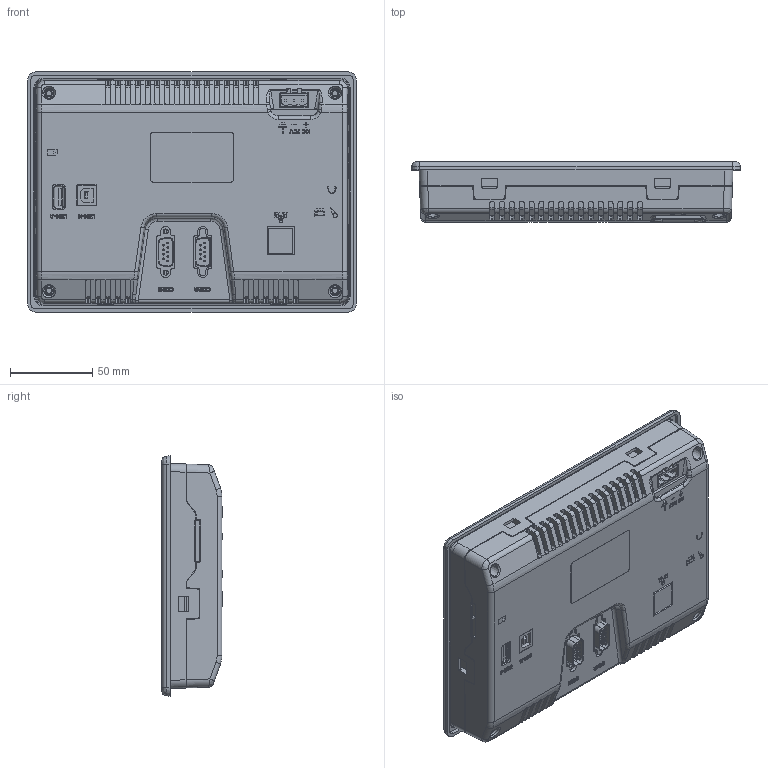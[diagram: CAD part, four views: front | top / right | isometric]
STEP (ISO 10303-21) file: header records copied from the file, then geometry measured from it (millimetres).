
FILE_DESCRIPTION((''),'2;1');
FILE_NAME('7E-ZPT_ASM_5__ASM_1_ASM_2_ASM','2023-06-08T14:46:21',('Administrator'),(''),'CREO PARAMETRIC BY PTC INC, 2018050','CREO PARAMETRIC BY PTC INC, 2018050','');
FILE_SCHEMA(('CONFIG_CONTROL_DESIGN'));
Products named in the file (11): P0133_9__1_1; P0134_8__5_1; CHUMOPIN--AH-2258A-GRB1-FD_1_1_; RS232-G_1_1__1_1; 3XIN-M--2EDGVC-508_1_1__1_1; 3-XIN_ASM_ASM_1_ASM_1__ASM_1_AS_ASM; USB-AMP_1734366_B1_1_1__1_1; USB-B--B180_1_1__1_1; PCB-ZPT_ASM_ASM_1_ASM_1__ASM_1__ASM; ZPT_ASM_14_ASM_1__ASM_1_ASM_2_ASM; 7E-ZPT_ASM_5__ASM_1_ASM_2_ASM
Assembly tree (11 placements, depth 5):
  7E-ZPT_ASM_5__ASM_1_ASM_2_ASM
    P0133_9__1_1
    P0134_8__5_1
    ZPT_ASM_14_ASM_1__ASM_1_ASM_2_ASM
      CHUMOPIN--AH-2258A-GRB1-FD_1_1_
      PCB-ZPT_ASM_ASM_1_ASM_1__ASM_1__ASM
        RS232-G_1_1__1_1  x2
        3-XIN_ASM_ASM_1_ASM_1__ASM_1_AS_ASM
          3XIN-M--2EDGVC-508_1_1__1_1
        USB-AMP_1734366_B1_1_1__1_1
        USB-B--B180_1_1__1_1
Bounding box: 200 x 36.65 x 146 mm (x, y, z)
Volume: 777620.2 mm3; surface area: 240394.6 mm2
Topology: 8 solids, 28 shells, 4059 faces, 11206 edges, 7306 vertices
Faces by surface type: plane 2284, cylinder 1112, extrusion 205, bspline 191, torus 136, cone 129, sphere 2
Entity records: 135708 total; most frequent: CARTESIAN_POINT 38895, ORIENTED_EDGE 21624, DIRECTION 17743, EDGE_CURVE 10812, VECTOR 7391, LINE 7186, VERTEX_POINT 7046, AXIS2_PLACEMENT_3D 5176
